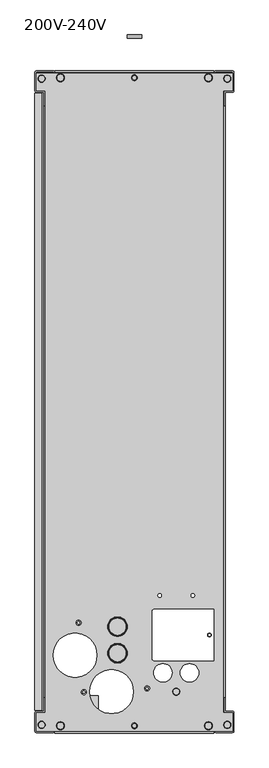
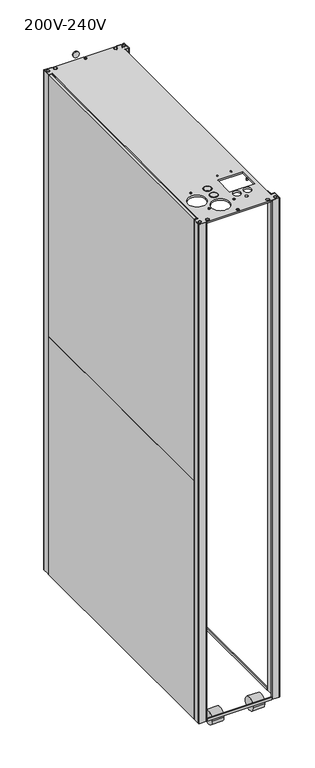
"""IFC4 building model written with IfcOpenShell, lengths in millimetres: proxy geometry, BIM_Model_for_ACRC301H-AC-Close_Coupled-Schneider_Electric-Chilled_Water-InRow_RC_301H-(208-230)V : 200V-240V."""

from ifc_helpers import new_model, si_unit, point, frame, frame_2d, origin, place, context, project, spatial, polyline, circle_curve, trimmed, segment, composite_curve, outline, extrude, source, transform, mapped, element, save


def proxy_200v_240v_cb059ae7(model_context):
    return source(origin(), model_context, "Body", "SweptSolid", [
        extrude(outline(polyline([(-134.4810716, 455.3598648), (-148.1830962, 455.3598648), (-148.1830962, 482.2563963), (147.8616006, 482.2563963), (147.8616006, 455.3455684), (133.7578931, 455.3455684), (133.7578931, -481.6803412), (147.9659779, -481.6803412), (147.9659779, -509.8577013), (-147.957802, -509.8577013), (-147.957802, -481.6724812), (-134.4810716, -481.6724812), (-134.4810716, 455.3598648)]), holes=[composite_curve([segment(trimmed(circle_curve(frame_2d((-139.9810746, -500.1376512)), 5.3750029), [point((-145.3560775, -500.1376512))], [point((-134.6060717, -500.1376512))], True, "CARTESIAN"), True, "CONTINUOUS"), segment(trimmed(circle_curve(frame_2d((-139.9810746, -500.1376512)), 5.3750029), [point((-134.6060717, -500.1376512))], [point((-145.3560775, -500.1376512))], True, "CARTESIAN"), True, "CONTINUOUS")], self_intersect=False), composite_curve([segment(trimmed(circle_curve(frame_2d((-111.5499792, -501.5165719)), 6.0000032), [point((-117.5499825, -501.5165719))], [point((-105.549976, -501.5165719))], True, "CARTESIAN"), True, "CONTINUOUS"), segment(trimmed(circle_curve(frame_2d((-111.5499792, -501.5165719)), 6.0000032), [point((-105.549976, -501.5165719))], [point((-117.5499825, -501.5165719))], True, "CARTESIAN"), True, "CONTINUOUS")], self_intersect=False), composite_curve([segment(trimmed(circle_curve(frame_2d((8.1e-05, -501.5165719)), 4.3750024), [point((-4.3749214, -501.5165719))], [point((4.3750834, -501.5165719))], True, "CARTESIAN"), True, "CONTINUOUS"), segment(trimmed(circle_curve(frame_2d((8.1e-05, -501.5165719)), 4.3750024), [point((4.3750834, -501.5165719))], [point((-4.3749214, -501.5165719))], True, "CARTESIAN"), True, "CONTINUOUS")], self_intersect=False), composite_curve([segment(trimmed(circle_curve(frame_2d((111.5501412, -501.5165719)), 6.0000032), [point((105.550138, -501.5165719))], [point((117.5501445, -501.5165719))], True, "CARTESIAN"), True, "CONTINUOUS"), segment(trimmed(circle_curve(frame_2d((111.5501412, -501.5165719)), 6.0000032), [point((117.5501445, -501.5165719))], [point((105.550138, -501.5165719))], True, "CARTESIAN"), True, "CONTINUOUS")], self_intersect=False), composite_curve([segment(trimmed(circle_curve(frame_2d((139.9812366, -500.1376512)), 5.3750029), [point((134.6062337, -500.1376512))], [point((145.3562395, -500.1376512))], True, "CARTESIAN"), True, "CONTINUOUS"), segment(trimmed(circle_curve(frame_2d((139.9812366, -500.1376512)), 5.3750029), [point((145.3562395, -500.1376512))], [point((134.6062337, -500.1376512))], True, "CARTESIAN"), True, "CONTINUOUS")], self_intersect=False), composite_curve([segment(trimmed(circle_curve(frame_2d((-89.4810473, -395.1565145)), 33.0000178), [point((-122.4810651, -395.1565145))], [point((-56.4810295, -395.1565145))], True, "CARTESIAN"), True, "CONTINUOUS"), segment(trimmed(circle_curve(frame_2d((-89.4810473, -395.1565145)), 33.0000178), [point((-56.4810295, -395.1565145))], [point((-122.4810651, -395.1565145))], True, "CARTESIAN"), True, "CONTINUOUS")], self_intersect=False), composite_curve([segment(trimmed(circle_curve(frame_2d((-34.4810176, -450.1565442)), 33.0000178), [point((-67.4810354, -450.1565442))], [point((-1.4809998, -450.1565442))], True, "CARTESIAN"), True, "CONTINUOUS"), segment(trimmed(circle_curve(frame_2d((-34.4810176, -450.1565442)), 33.0000178), [point((-1.4809998, -450.1565442))], [point((-67.4810354, -450.1565442))], True, "CARTESIAN"), True, "CONTINUOUS")], self_intersect=False), composite_curve([segment(trimmed(circle_curve(frame_2d((-25.5188528, -392.1565129)), 14.6812079), [point((-40.2000607, -392.1565129))], [point((-10.8376449, -392.1565129))], True, "CARTESIAN"), True, "CONTINUOUS"), segment(trimmed(circle_curve(frame_2d((-25.5188528, -392.1565129)), 14.6812079), [point((-10.8376449, -392.1565129))], [point((-40.2000607, -392.1565129))], True, "CARTESIAN"), True, "CONTINUOUS")], self_intersect=False), composite_curve([segment(trimmed(circle_curve(frame_2d((-25.5188528, -352.1564913)), 14.6812079), [point((-40.2000607, -352.1564913))], [point((-10.8376449, -352.1564913))], True, "CARTESIAN"), True, "CONTINUOUS"), segment(trimmed(circle_curve(frame_2d((-25.5188528, -352.1564913)), 14.6812079), [point((-10.8376449, -352.1564913))], [point((-40.2000607, -352.1564913))], True, "CARTESIAN"), True, "CONTINUOUS")], self_intersect=False), polyline([(119.5922256, -403.6565191), (119.5922256, -325.6564769), (28.9866434, -325.6564769), (26.9866423, -327.656478), (26.9866423, -331.6564802), (26.9866423, -397.6565158), (26.9866423, -401.656518), (28.9866434, -403.6565191), (119.5922256, -403.6565191)]), composite_curve([segment(trimmed(circle_curve(frame_2d((82.9812058, -421.6565288)), 13.9000075), [point((69.0811983, -421.6565288))], [point((96.8812133, -421.6565288))], True, "CARTESIAN"), True, "CONTINUOUS"), segment(trimmed(circle_curve(frame_2d((82.9812058, -421.6565288)), 13.9000075), [point((96.8812133, -421.6565288))], [point((69.0811983, -421.6565288))], True, "CARTESIAN"), True, "CONTINUOUS")], self_intersect=False), composite_curve([segment(trimmed(circle_curve(frame_2d((42.9811842, -421.6565288)), 13.9000075), [point((29.0811767, -421.6565288))], [point((56.8811917, -421.6565288))], True, "CARTESIAN"), True, "CONTINUOUS"), segment(trimmed(circle_curve(frame_2d((42.9811842, -421.6565288)), 13.9000075), [point((56.8811917, -421.6565288))], [point((29.0811767, -421.6565288))], True, "CARTESIAN"), True, "CONTINUOUS")], self_intersect=False), composite_curve([segment(trimmed(circle_curve(frame_2d((19.0773315, -445.2074267)), 3.8000021), [point((15.2773295, -445.2074267))], [point((22.8773336, -445.2074267))], True, "CARTESIAN"), True, "CONTINUOUS"), segment(trimmed(circle_curve(frame_2d((19.0773315, -445.2074267)), 3.8000021), [point((22.8773336, -445.2074267))], [point((15.2773295, -445.2074267))], True, "CARTESIAN"), True, "CONTINUOUS")], self_intersect=False), composite_curve([segment(trimmed(circle_curve(frame_2d((62.981195, -450.1565442)), 5.2500028), [point((57.7311922, -450.1565442))], [point((68.2311978, -450.1565442))], True, "CARTESIAN"), True, "CONTINUOUS"), segment(trimmed(circle_curve(frame_2d((62.981195, -450.1565442)), 5.2500028), [point((68.2311978, -450.1565442))], [point((57.7311922, -450.1565442))], True, "CARTESIAN"), True, "CONTINUOUS")], self_intersect=False), composite_curve([segment(trimmed(circle_curve(frame_2d((-76.2865117, -450.7524474)), 3.8000021), [point((-80.0865138, -450.7524474))], [point((-72.4865097, -450.7524474))], True, "CARTESIAN"), True, "CONTINUOUS"), segment(trimmed(circle_curve(frame_2d((-76.2865117, -450.7524474)), 3.8000021), [point((-72.4865097, -450.7524474))], [point((-80.0865138, -450.7524474))], True, "CARTESIAN"), True, "CONTINUOUS")], self_intersect=False), composite_curve([segment(trimmed(circle_curve(frame_2d((-84.1459649, -346.2429222)), 3.8000021), [point((-87.945967, -346.2429222))], [point((-80.3459629, -346.2429222))], True, "CARTESIAN"), True, "CONTINUOUS"), segment(trimmed(circle_curve(frame_2d((-84.1459649, -346.2429222)), 3.8000021), [point((-80.3459629, -346.2429222))], [point((-87.945967, -346.2429222))], True, "CARTESIAN"), True, "CONTINUOUS")], self_intersect=False), composite_curve([segment(trimmed(circle_curve(frame_2d((87.9812085, -305.1564659)), 2.6647024), [point((85.3165061, -305.1564659))], [point((90.6459109, -305.1564659))], True, "CARTESIAN"), True, "CONTINUOUS"), segment(trimmed(circle_curve(frame_2d((87.9812085, -305.1564659)), 2.6647024), [point((90.6459109, -305.1564659))], [point((85.3165061, -305.1564659))], True, "CARTESIAN"), True, "CONTINUOUS")], self_intersect=False), composite_curve([segment(trimmed(circle_curve(frame_2d((37.9811815, -305.1564659)), 2.6647024), [point((35.3164791, -305.1564659))], [point((40.6458839, -305.1564659))], True, "CARTESIAN"), True, "CONTINUOUS"), segment(trimmed(circle_curve(frame_2d((37.9811815, -305.1564659)), 2.6647024), [point((40.6458839, -305.1564659))], [point((35.3164791, -305.1564659))], True, "CARTESIAN"), True, "CONTINUOUS")], self_intersect=False), composite_curve([segment(trimmed(circle_curve(frame_2d((139.9812366, 473.8250348)), 5.3750029), [point((134.6062337, 473.8250348))], [point((145.3562395, 473.8250348))], True, "CARTESIAN"), True, "CONTINUOUS"), segment(trimmed(circle_curve(frame_2d((139.9812366, 473.8250348)), 5.3750029), [point((145.3562395, 473.8250348))], [point((134.6062337, 473.8250348))], True, "CARTESIAN"), True, "CONTINUOUS")], self_intersect=False), composite_curve([segment(trimmed(circle_curve(frame_2d((111.5501412, 475.2039555)), 6.0000032), [point((105.550138, 475.2039555))], [point((117.5501445, 475.2039555))], True, "CARTESIAN"), True, "CONTINUOUS"), segment(trimmed(circle_curve(frame_2d((111.5501412, 475.2039555)), 6.0000032), [point((117.5501445, 475.2039555))], [point((105.550138, 475.2039555))], True, "CARTESIAN"), True, "CONTINUOUS")], self_intersect=False), composite_curve([segment(trimmed(circle_curve(frame_2d((8.1e-05, 475.2039555)), 4.3750024), [point((-4.3749214, 475.2039555))], [point((4.3750834, 475.2039555))], True, "CARTESIAN"), True, "CONTINUOUS"), segment(trimmed(circle_curve(frame_2d((8.1e-05, 475.2039555)), 4.3750024), [point((4.3750834, 475.2039555))], [point((-4.3749214, 475.2039555))], True, "CARTESIAN"), True, "CONTINUOUS")], self_intersect=False), composite_curve([segment(trimmed(circle_curve(frame_2d((-139.9810746, 473.8250348)), 5.3750029), [point((-145.3560775, 473.8250348))], [point((-134.6060717, 473.8250348))], True, "CARTESIAN"), True, "CONTINUOUS"), segment(trimmed(circle_curve(frame_2d((-139.9810746, 473.8250348)), 5.3750029), [point((-134.6060717, 473.8250348))], [point((-145.3560775, 473.8250348))], True, "CARTESIAN"), True, "CONTINUOUS")], self_intersect=False), composite_curve([segment(trimmed(circle_curve(frame_2d((-111.5499792, 475.2039555)), 6.0000032), [point((-117.5499825, 475.2039555))], [point((-105.549976, 475.2039555))], True, "CARTESIAN"), True, "CONTINUOUS"), segment(trimmed(circle_curve(frame_2d((-111.5499792, 475.2039555)), 6.0000032), [point((-105.549976, 475.2039555))], [point((-117.5499825, 475.2039555))], True, "CARTESIAN"), True, "CONTINUOUS")], self_intersect=False)]), frame((0.0, 0.0, 1985.0), z_axis=(0.0, 0.0, 1.0), x_axis=(1.0, 0.0, 0.0)), (0.0, 0.0, 1.0), 6.0),
        extrude(outline(composite_curve([segment(trimmed(circle_curve(frame_2d((-139.9810746, -500.1346512)), 4.6000025), [point((-144.5810771, -500.1346512))], [point((-135.3810721, -500.1346512))], False, "CARTESIAN"), True, "CONTINUOUS"), segment(trimmed(circle_curve(frame_2d((-139.9810746, -500.1346512)), 4.6000025), [point((-135.3810721, -500.1346512))], [point((-144.5810771, -500.1346512))], False, "CARTESIAN"), True, "CONTINUOUS")], self_intersect=False)), frame((0.0, 0.0, 1985.0), z_axis=(0.0, 0.0, 1.0), x_axis=(1.0, 0.0, 0.0)), (0.0, 0.0, 1.0), 6.0),
        extrude(outline(composite_curve([segment(trimmed(circle_curve(frame_2d((-111.5509792, -501.5165719)), 5.0000027), [point((-116.5509819, -501.5165719))], [point((-106.5509765, -501.5165719))], False, "CARTESIAN"), True, "CONTINUOUS"), segment(trimmed(circle_curve(frame_2d((-111.5509792, -501.5165719)), 5.0000027), [point((-106.5509765, -501.5165719))], [point((-116.5509819, -501.5165719))], False, "CARTESIAN"), True, "CONTINUOUS")], self_intersect=False)), frame((0.0, 0.0, 1985.0), z_axis=(0.0, 0.0, 1.0), x_axis=(1.0, 0.0, 0.0)), (0.0, 0.0, 1.0), 6.0),
        extrude(outline(composite_curve([segment(trimmed(circle_curve(frame_2d((8.1e-05, -501.5165719)), 3.0000016), [point((-2.9999206, -501.5165719))], [point((3.0000826, -501.5165719))], False, "CARTESIAN"), True, "CONTINUOUS"), segment(trimmed(circle_curve(frame_2d((8.1e-05, -501.5165719)), 3.0000016), [point((3.0000826, -501.5165719))], [point((-2.9999206, -501.5165719))], False, "CARTESIAN"), True, "CONTINUOUS")], self_intersect=False)), frame((0.0, 0.0, 1985.0), z_axis=(0.0, 0.0, 1.0), x_axis=(1.0, 0.0, 0.0)), (0.0, 0.0, 1.0), 6.0),
        extrude(outline(composite_curve([segment(trimmed(circle_curve(frame_2d((111.5512212, -501.5176519)), 5.0000027), [point((106.5512185, -501.5176519))], [point((116.5512239, -501.5176519))], False, "CARTESIAN"), True, "CONTINUOUS"), segment(trimmed(circle_curve(frame_2d((111.5512212, -501.5176519)), 5.0000027), [point((116.5512239, -501.5176519))], [point((106.5512185, -501.5176519))], False, "CARTESIAN"), True, "CONTINUOUS")], self_intersect=False)), frame((0.0, 0.0, 1985.0), z_axis=(0.0, 0.0, 1.0), x_axis=(1.0, 0.0, 0.0)), (0.0, 0.0, 1.0), 6.0),
        extrude(outline(composite_curve([segment(trimmed(circle_curve(frame_2d((139.9812366, -500.1376512)), 4.6000025), [point((135.3812341, -500.1376512))], [point((144.5812391, -500.1376512))], False, "CARTESIAN"), True, "CONTINUOUS"), segment(trimmed(circle_curve(frame_2d((139.9812366, -500.1376512)), 4.6000025), [point((144.5812391, -500.1376512))], [point((135.3812341, -500.1376512))], False, "CARTESIAN"), True, "CONTINUOUS")], self_intersect=False)), frame((0.0, 0.0, 1985.0), z_axis=(0.0, 0.0, 1.0), x_axis=(1.0, 0.0, 0.0)), (0.0, 0.0, 1.0), 6.0),
        extrude(outline(composite_curve([segment(trimmed(circle_curve(frame_2d((-25.5188528, -392.1565129)), 14.0462076), [point((-39.5650604, -392.1565129))], [point((-11.4726452, -392.1565129))], False, "CARTESIAN"), True, "CONTINUOUS"), segment(trimmed(circle_curve(frame_2d((-25.5188528, -392.1565129)), 14.0462076), [point((-11.4726452, -392.1565129))], [point((-39.5650604, -392.1565129))], False, "CARTESIAN"), True, "CONTINUOUS")], self_intersect=False), holes=[composite_curve([segment(trimmed(circle_curve(frame_2d((-25.5188528, -392.1565129)), 13.2461072), [point((-38.7649599, -392.1565129))], [point((-12.2727456, -392.1565129))], True, "CARTESIAN"), True, "CONTINUOUS"), segment(trimmed(circle_curve(frame_2d((-25.5188528, -392.1565129)), 13.2461072), [point((-12.2727456, -392.1565129))], [point((-38.7649599, -392.1565129))], True, "CARTESIAN"), True, "CONTINUOUS")], self_intersect=False)]), frame((0.0, 0.0, 1985.0), z_axis=(0.0, 0.0, 1.0), x_axis=(1.0, 0.0, 0.0)), (0.0, 0.0, 1.0), 6.0),
        extrude(outline(composite_curve([segment(trimmed(circle_curve(frame_2d((-25.5188528, -392.1565129)), 12.6111068), [point((-38.1299596, -392.1565129))], [point((-12.907746, -392.1565129))], False, "CARTESIAN"), True, "CONTINUOUS"), segment(trimmed(circle_curve(frame_2d((-25.5188528, -392.1565129)), 12.6111068), [point((-12.907746, -392.1565129))], [point((-38.1299596, -392.1565129))], False, "CARTESIAN"), True, "CONTINUOUS")], self_intersect=False)), frame((0.0, 0.0, 1985.0), z_axis=(0.0, 0.0, 1.0), x_axis=(1.0, 0.0, 0.0)), (0.0, 0.0, 1.0), 6.0),
        extrude(outline(composite_curve([segment(trimmed(circle_curve(frame_2d((-25.5188528, -352.1564913)), 14.0462076), [point((-39.5650604, -352.1564913))], [point((-11.4726452, -352.1564913))], False, "CARTESIAN"), True, "CONTINUOUS"), segment(trimmed(circle_curve(frame_2d((-25.5188528, -352.1564913)), 14.0462076), [point((-11.4726452, -352.1564913))], [point((-39.5650604, -352.1564913))], False, "CARTESIAN"), True, "CONTINUOUS")], self_intersect=False), holes=[composite_curve([segment(trimmed(circle_curve(frame_2d((-25.5188528, -352.1564913)), 13.2461072), [point((-38.7649599, -352.1564913))], [point((-12.2727456, -352.1564913))], True, "CARTESIAN"), True, "CONTINUOUS"), segment(trimmed(circle_curve(frame_2d((-25.5188528, -352.1564913)), 13.2461072), [point((-12.2727456, -352.1564913))], [point((-38.7649599, -352.1564913))], True, "CARTESIAN"), True, "CONTINUOUS")], self_intersect=False)]), frame((0.0, 0.0, 1985.0), z_axis=(0.0, 0.0, 1.0), x_axis=(1.0, 0.0, 0.0)), (0.0, 0.0, 1.0), 6.0),
        extrude(outline(composite_curve([segment(trimmed(circle_curve(frame_2d((-25.5188528, -352.1564913)), 12.6111068), [point((-38.1299596, -352.1564913))], [point((-12.907746, -352.1564913))], False, "CARTESIAN"), True, "CONTINUOUS"), segment(trimmed(circle_curve(frame_2d((-25.5188528, -352.1564913)), 12.6111068), [point((-12.907746, -352.1564913))], [point((-38.1299596, -352.1564913))], False, "CARTESIAN"), True, "CONTINUOUS")], self_intersect=False)), frame((0.0, 0.0, 1985.0), z_axis=(0.0, 0.0, 1.0), x_axis=(1.0, 0.0, 0.0)), (0.0, 0.0, 1.0), 6.0),
        extrude(outline(composite_curve([segment(trimmed(circle_curve(frame_2d((19.0773315, -445.2074267)), 2.0000011), [point((17.0773305, -445.2074267))], [point((21.0773326, -445.2074267))], False, "CARTESIAN"), True, "CONTINUOUS"), segment(trimmed(circle_curve(frame_2d((19.0773315, -445.2074267)), 2.0000011), [point((21.0773326, -445.2074267))], [point((17.0773305, -445.2074267))], False, "CARTESIAN"), True, "CONTINUOUS")], self_intersect=False)), frame((0.0, 0.0, 1985.0), z_axis=(0.0, 0.0, 1.0), x_axis=(1.0, 0.0, 0.0)), (0.0, 0.0, 1.0), 6.0),
        extrude(outline(composite_curve([segment(trimmed(circle_curve(frame_2d((62.981195, -450.1565442)), 4.6000025), [point((58.3811925, -450.1565442))], [point((67.5811975, -450.1565442))], False, "CARTESIAN"), True, "CONTINUOUS"), segment(trimmed(circle_curve(frame_2d((62.981195, -450.1565442)), 4.6000025), [point((67.5811975, -450.1565442))], [point((58.3811925, -450.1565442))], False, "CARTESIAN"), True, "CONTINUOUS")], self_intersect=False)), frame((0.0, 0.0, 1985.0), z_axis=(0.0, 0.0, 1.0), x_axis=(1.0, 0.0, 0.0)), (0.0, 0.0, 1.0), 6.0),
        extrude(outline(composite_curve([segment(trimmed(circle_curve(frame_2d((-76.2865117, -450.7524474)), 2.0000011), [point((-78.2865128, -450.7524474))], [point((-74.2865106, -450.7524474))], False, "CARTESIAN"), True, "CONTINUOUS"), segment(trimmed(circle_curve(frame_2d((-76.2865117, -450.7524474)), 2.0000011), [point((-74.2865106, -450.7524474))], [point((-78.2865128, -450.7524474))], False, "CARTESIAN"), True, "CONTINUOUS")], self_intersect=False)), frame((0.0, 0.0, 1985.0), z_axis=(0.0, 0.0, 1.0), x_axis=(1.0, 0.0, 0.0)), (0.0, 0.0, 1.0), 6.0),
        extrude(outline(composite_curve([segment(trimmed(circle_curve(frame_2d((-84.1459649, -346.2429222)), 2.0000011), [point((-86.145966, -346.2429222))], [point((-82.1459638, -346.2429222))], False, "CARTESIAN"), True, "CONTINUOUS"), segment(trimmed(circle_curve(frame_2d((-84.1459649, -346.2429222)), 2.0000011), [point((-82.1459638, -346.2429222))], [point((-86.145966, -346.2429222))], False, "CARTESIAN"), True, "CONTINUOUS")], self_intersect=False)), frame((0.0, 0.0, 1985.0), z_axis=(0.0, 0.0, 1.0), x_axis=(1.0, 0.0, 0.0)), (0.0, 0.0, 1.0), 6.0),
        extrude(outline(composite_curve([segment(trimmed(circle_curve(frame_2d((112.981222, -364.656498)), 2.7050015), [point((110.2762205, -364.656498))], [point((115.6862235, -364.656498))], False, "CARTESIAN"), True, "CONTINUOUS"), segment(trimmed(circle_curve(frame_2d((112.981222, -364.656498)), 2.7050015), [point((115.6862235, -364.656498))], [point((110.2762205, -364.656498))], False, "CARTESIAN"), True, "CONTINUOUS")], self_intersect=False), holes=[composite_curve([segment(trimmed(circle_curve(frame_2d((112.981222, -364.656498)), 2.0000011), [point((110.9812209, -364.656498))], [point((114.9812231, -364.656498))], True, "CARTESIAN"), True, "CONTINUOUS"), segment(trimmed(circle_curve(frame_2d((112.981222, -364.656498)), 2.0000011), [point((114.9812231, -364.656498))], [point((110.9812209, -364.656498))], True, "CARTESIAN"), True, "CONTINUOUS")], self_intersect=False)]), frame((0.0, 0.0, 1985.0), z_axis=(0.0, 0.0, 1.0), x_axis=(1.0, 0.0, 0.0)), (0.0, 0.0, 1.0), 6.0),
        extrude(outline(composite_curve([segment(trimmed(circle_curve(frame_2d((139.9812366, 473.8220348)), 4.6000025), [point((135.3812341, 473.8220348))], [point((144.5812391, 473.8220348))], False, "CARTESIAN"), True, "CONTINUOUS"), segment(trimmed(circle_curve(frame_2d((139.9812366, 473.8220348)), 4.6000025), [point((144.5812391, 473.8220348))], [point((135.3812341, 473.8220348))], False, "CARTESIAN"), True, "CONTINUOUS")], self_intersect=False)), frame((0.0, 0.0, 1985.0), z_axis=(0.0, 0.0, 1.0), x_axis=(1.0, 0.0, 0.0)), (0.0, 0.0, 1.0), 6.0),
        extrude(outline(composite_curve([segment(trimmed(circle_curve(frame_2d((111.5511412, 475.2039555)), 5.0000027), [point((106.5511385, 475.2039555))], [point((116.5511439, 475.2039555))], False, "CARTESIAN"), True, "CONTINUOUS"), segment(trimmed(circle_curve(frame_2d((111.5511412, 475.2039555)), 5.0000027), [point((116.5511439, 475.2039555))], [point((106.5511385, 475.2039555))], False, "CARTESIAN"), True, "CONTINUOUS")], self_intersect=False)), frame((0.0, 0.0, 1985.0), z_axis=(0.0, 0.0, 1.0), x_axis=(1.0, 0.0, 0.0)), (0.0, 0.0, 1.0), 6.0),
        extrude(outline(composite_curve([segment(trimmed(circle_curve(frame_2d((8.1e-05, 475.2039555)), 3.0000016), [point((-2.9999206, 475.2039555))], [point((3.0000826, 475.2039555))], False, "CARTESIAN"), True, "CONTINUOUS"), segment(trimmed(circle_curve(frame_2d((8.1e-05, 475.2039555)), 3.0000016), [point((3.0000826, 475.2039555))], [point((-2.9999206, 475.2039555))], False, "CARTESIAN"), True, "CONTINUOUS")], self_intersect=False)), frame((0.0, 0.0, 1985.0), z_axis=(0.0, 0.0, 1.0), x_axis=(1.0, 0.0, 0.0)), (0.0, 0.0, 1.0), 6.0),
        extrude(outline(composite_curve([segment(trimmed(circle_curve(frame_2d((-139.9810746, 473.8250348)), 4.6000025), [point((-144.5810771, 473.8250348))], [point((-135.3810721, 473.8250348))], False, "CARTESIAN"), True, "CONTINUOUS"), segment(trimmed(circle_curve(frame_2d((-139.9810746, 473.8250348)), 4.6000025), [point((-135.3810721, 473.8250348))], [point((-144.5810771, 473.8250348))], False, "CARTESIAN"), True, "CONTINUOUS")], self_intersect=False)), frame((0.0, 0.0, 1985.0), z_axis=(0.0, 0.0, 1.0), x_axis=(1.0, 0.0, 0.0)), (0.0, 0.0, 1.0), 6.0),
        extrude(outline(composite_curve([segment(trimmed(circle_curve(frame_2d((-111.5510592, 475.2050355)), 5.0000027), [point((-116.5510619, 475.2050355))], [point((-106.5510565, 475.2050355))], False, "CARTESIAN"), True, "CONTINUOUS"), segment(trimmed(circle_curve(frame_2d((-111.5510592, 475.2050355)), 5.0000027), [point((-106.5510565, 475.2050355))], [point((-116.5510619, 475.2050355))], False, "CARTESIAN"), True, "CONTINUOUS")], self_intersect=False)), frame((0.0, 0.0, 1985.0), z_axis=(0.0, 0.0, 1.0), x_axis=(1.0, 0.0, 0.0)), (0.0, 0.0, 1.0), 6.0),
        extrude(outline(polyline([(119.7501457, 483.57504), (-119.7499837, 483.57504), (-119.7499837, 485.8439613), (119.7501457, 485.8439613), (119.7501457, 483.57504)])), frame((0.0, 0.0, 36.1092195), z_axis=(0.0, 0.0, 1.0), x_axis=(1.0, 0.0, 0.0)), (0.0, 0.0, 1.0), 10.0),
        extrude(outline(polyline([(119.7501457, -512.1565777), (-119.7499837, -512.1565777), (-119.7499837, -509.8876564), (119.7501457, -509.8876564), (119.7501457, -512.1565777)])), frame((0.0, 0.0, 36.1092195), z_axis=(0.0, 0.0, 1.0), x_axis=(1.0, 0.0, 0.0)), (0.0, 0.0, 1.0), 10.0),
        extrude(outline(polyline([(136.4999927, -459.156549), (134.2312335, -459.156549), (134.2312335, 432.8439326), (136.4999927, 432.8439326), (136.4999927, -459.156549)])), frame((0.0, 0.0, 36.1092195), z_axis=(0.0, 0.0, 1.0), x_axis=(1.0, 0.0, 0.0)), (0.0, 0.0, 1.0), 10.0),
        extrude(outline(polyline([(-136.4999927, 432.8439326), (-134.2310715, 432.8439326), (-134.2310715, -459.156549), (-136.4999927, -459.156549), (-136.4999927, 432.8439326)])), frame((0.0, 0.0, 36.1092195), z_axis=(0.0, 0.0, 1.0), x_axis=(1.0, 0.0, 0.0)), (0.0, 0.0, 1.0), 10.0),
        extrude(outline(composite_curve([segment(polyline([(121.5189046, 483.1346453), (119.9999838, 483.1346453)]), True, "CONTINUOUS"), segment(trimmed(circle_curve(frame_2d((122.268905, 483.1346453)), 2.2689212), [point((119.9999838, 483.1346453))], [point((122.268905, 485.4035665))], False, "CARTESIAN"), True, "CONTINUOUS"), segment(polyline([(122.268905, 485.4035665), (147.7310788, 485.4035665)]), True, "CONTINUOUS"), segment(trimmed(circle_curve(frame_2d((147.7310788, 483.1346453)), 2.2689212), [point((147.7310788, 485.4035665))], [point((150.0, 483.1346453))], False, "CARTESIAN"), True, "CONTINUOUS"), segment(polyline([(150.0, 483.1346453), (150.0, 455.6724704)]), True, "CONTINUOUS"), segment(trimmed(circle_curve(frame_2d((147.7310788, 455.6724704)), 2.2689212), [point((150.0, 455.6724704))], [point((147.7310788, 453.4035492))], False, "CARTESIAN"), True, "CONTINUOUS"), segment(polyline([(147.7310788, 453.4035492), (137.2499931, 453.4035492)]), True, "CONTINUOUS"), segment(trimmed(circle_curve(frame_2d((137.2499931, 452.6535488)), 0.7500004), [point((137.2499931, 453.4035492))], [point((136.4999927, 452.6535488))], True, "CARTESIAN"), True, "CONTINUOUS"), segment(polyline([(136.4999927, 452.6535488), (136.4999927, 432.8439326), (134.9810719, 432.8439326), (134.9810719, 452.6535488)]), True, "CONTINUOUS"), segment(trimmed(circle_curve(frame_2d((137.2499931, 452.6535488)), 2.2689212), [point((134.9810719, 452.6535488))], [point((137.2499931, 454.92247))], False, "CARTESIAN"), True, "CONTINUOUS"), segment(polyline([(137.2499931, 454.92247), (147.7310788, 454.92247)]), True, "CONTINUOUS"), segment(trimmed(circle_curve(frame_2d((147.7310788, 455.6724704)), 0.7500004), [point((147.7310788, 454.92247))], [point((148.4810792, 455.6724704))], True, "CARTESIAN"), True, "CONTINUOUS"), segment(polyline([(148.4810792, 455.6724704), (148.4810792, 483.1346453)]), True, "CONTINUOUS"), segment(trimmed(circle_curve(frame_2d((147.7310788, 483.1346453)), 0.7500004), [point((148.4810792, 483.1346453))], [point((147.7310788, 483.8846457))], True, "CARTESIAN"), True, "CONTINUOUS"), segment(polyline([(147.7310788, 483.8846457), (122.268905, 483.8846457)]), True, "CONTINUOUS"), segment(trimmed(circle_curve(frame_2d((122.268905, 483.1346453)), 0.7500004), [point((122.268905, 483.8846457))], [point((121.5189046, 483.1346453))], True, "CARTESIAN"), True, "CONTINUOUS")], self_intersect=False)), frame((0.0, 0.0, 36.1092195), z_axis=(0.0, 0.0, 1.0), x_axis=(1.0, 0.0, 0.0)), (0.0, 0.0, 1.0), 1954.8907805),
        extrude(outline(composite_curve([segment(trimmed(circle_curve(frame_2d((-122.268905, 483.1346453)), 0.7500004), [point((-121.5189046, 483.1346453))], [point((-122.268905, 483.8846457))], True, "CARTESIAN"), True, "CONTINUOUS"), segment(polyline([(-122.268905, 483.8846457), (-147.7310788, 483.8846457)]), True, "CONTINUOUS"), segment(trimmed(circle_curve(frame_2d((-147.7310788, 483.1346453)), 0.7500004), [point((-147.7310788, 483.8846457))], [point((-148.4810792, 483.1346453))], True, "CARTESIAN"), True, "CONTINUOUS"), segment(polyline([(-148.4810792, 483.1346453), (-148.4810792, 455.6724704)]), True, "CONTINUOUS"), segment(trimmed(circle_curve(frame_2d((-147.7310788, 455.6724704)), 0.7500004), [point((-148.4810792, 455.6724704))], [point((-147.7310788, 454.92247))], True, "CARTESIAN"), True, "CONTINUOUS"), segment(polyline([(-147.7310788, 454.92247), (-137.2499931, 454.92247)]), True, "CONTINUOUS"), segment(trimmed(circle_curve(frame_2d((-137.2499931, 452.6535488)), 2.2689212), [point((-137.2499931, 454.92247))], [point((-134.9810719, 452.6535488))], False, "CARTESIAN"), True, "CONTINUOUS"), segment(polyline([(-134.9810719, 452.6535488), (-134.9810719, 432.8439326), (-136.4999927, 432.8439326), (-136.4999927, 452.6535488)]), True, "CONTINUOUS"), segment(trimmed(circle_curve(frame_2d((-137.2499931, 452.6535488)), 0.7500004), [point((-136.4999927, 452.6535488))], [point((-137.2499931, 453.4035492))], True, "CARTESIAN"), True, "CONTINUOUS"), segment(polyline([(-137.2499931, 453.4035492), (-147.7310788, 453.4035492)]), True, "CONTINUOUS"), segment(trimmed(circle_curve(frame_2d((-147.7310788, 455.6724704)), 2.2689212), [point((-147.7310788, 453.4035492))], [point((-150.0, 455.6724704))], False, "CARTESIAN"), True, "CONTINUOUS"), segment(polyline([(-150.0, 455.6724704), (-150.0, 483.1346453)]), True, "CONTINUOUS"), segment(trimmed(circle_curve(frame_2d((-147.7310788, 483.1346453)), 2.2689212), [point((-150.0, 483.1346453))], [point((-147.7310788, 485.4035665))], False, "CARTESIAN"), True, "CONTINUOUS"), segment(polyline([(-147.7310788, 485.4035665), (-122.268905, 485.4035665)]), True, "CONTINUOUS"), segment(trimmed(circle_curve(frame_2d((-122.268905, 483.1346453)), 2.2689212), [point((-122.268905, 485.4035665))], [point((-119.9999838, 483.1346453))], False, "CARTESIAN"), True, "CONTINUOUS"), segment(polyline([(-119.9999838, 483.1346453), (-121.5189046, 483.1346453)]), True, "CONTINUOUS")], self_intersect=False)), frame((0.0, 0.0, 36.1092195), z_axis=(0.0, 0.0, 1.0), x_axis=(1.0, 0.0, 0.0)), (0.0, 0.0, 1.0), 1954.8907805),
        extrude(outline(composite_curve([segment(trimmed(circle_curve(frame_2d((122.268905, -509.3846562)), 0.7500004), [point((121.5189046, -509.3846562))], [point((122.268905, -510.1346566))], True, "CARTESIAN"), True, "CONTINUOUS"), segment(polyline([(122.268905, -510.1346566), (147.7310788, -510.1346566)]), True, "CONTINUOUS"), segment(trimmed(circle_curve(frame_2d((147.7310788, -509.3846562)), 0.7500004), [point((147.7310788, -510.1346566))], [point((148.4810792, -509.3846562))], True, "CARTESIAN"), True, "CONTINUOUS"), segment(polyline([(148.4810792, -509.3846562), (148.4810792, -481.9224813)]), True, "CONTINUOUS"), segment(trimmed(circle_curve(frame_2d((147.7310788, -481.9224813)), 0.7500004), [point((148.4810792, -481.9224813))], [point((147.7310788, -481.1724809))], True, "CARTESIAN"), True, "CONTINUOUS"), segment(polyline([(147.7310788, -481.1724809), (137.2499931, -481.1724809)]), True, "CONTINUOUS"), segment(trimmed(circle_curve(frame_2d((137.2499931, -478.9035597)), 2.2689212), [point((137.2499931, -481.1724809))], [point((134.9810719, -478.9035597))], False, "CARTESIAN"), True, "CONTINUOUS"), segment(polyline([(134.9810719, -478.9035597), (134.9810719, -459.156549), (136.4999927, -459.156549), (136.4999927, -478.9035597)]), True, "CONTINUOUS"), segment(trimmed(circle_curve(frame_2d((137.2499931, -478.9035597)), 0.7500004), [point((136.4999927, -478.9035597))], [point((137.2499931, -479.6535601))], True, "CARTESIAN"), True, "CONTINUOUS"), segment(polyline([(137.2499931, -479.6535601), (147.7310788, -479.6535601)]), True, "CONTINUOUS"), segment(trimmed(circle_curve(frame_2d((147.7310788, -481.9224813)), 2.2689212), [point((147.7310788, -479.6535601))], [point((150.0, -481.9224813))], False, "CARTESIAN"), True, "CONTINUOUS"), segment(polyline([(150.0, -481.9224813), (150.0, -509.3846562)]), True, "CONTINUOUS"), segment(trimmed(circle_curve(frame_2d((147.7310788, -509.3846562)), 2.2689212), [point((150.0, -509.3846562))], [point((147.7310788, -511.6535774))], False, "CARTESIAN"), True, "CONTINUOUS"), segment(polyline([(147.7310788, -511.6535774), (122.268905, -511.6535774)]), True, "CONTINUOUS"), segment(trimmed(circle_curve(frame_2d((122.268905, -509.3846562)), 2.2689212), [point((122.268905, -511.6535774))], [point((119.9999838, -509.3846562))], False, "CARTESIAN"), True, "CONTINUOUS"), segment(polyline([(119.9999838, -509.3846562), (121.5189046, -509.3846562)]), True, "CONTINUOUS")], self_intersect=False)), frame((0.0, 0.0, 36.1092195), z_axis=(0.0, 0.0, 1.0), x_axis=(1.0, 0.0, 0.0)), (0.0, 0.0, 1.0), 1954.8907805),
        extrude(outline(composite_curve([segment(polyline([(-121.5189046, -509.3846562), (-119.9999838, -509.3846562)]), True, "CONTINUOUS"), segment(trimmed(circle_curve(frame_2d((-122.268905, -509.3846562)), 2.2689212), [point((-119.9999838, -509.3846562))], [point((-122.268905, -511.6535774))], False, "CARTESIAN"), True, "CONTINUOUS"), segment(polyline([(-122.268905, -511.6535774), (-147.7310788, -511.6535774)]), True, "CONTINUOUS"), segment(trimmed(circle_curve(frame_2d((-147.7310788, -509.3846562)), 2.2689212), [point((-147.7310788, -511.6535774))], [point((-150.0, -509.3846562))], False, "CARTESIAN"), True, "CONTINUOUS"), segment(polyline([(-150.0, -509.3846562), (-150.0, -481.9224813)]), True, "CONTINUOUS"), segment(trimmed(circle_curve(frame_2d((-147.7310788, -481.9224813)), 2.2689212), [point((-150.0, -481.9224813))], [point((-147.7310788, -479.6535601))], False, "CARTESIAN"), True, "CONTINUOUS"), segment(polyline([(-147.7310788, -479.6535601), (-137.2499931, -479.6535601)]), True, "CONTINUOUS"), segment(trimmed(circle_curve(frame_2d((-137.2499931, -478.9035597)), 0.7500004), [point((-137.2499931, -479.6535601))], [point((-136.4999927, -478.9035597))], True, "CARTESIAN"), True, "CONTINUOUS"), segment(polyline([(-136.4999927, -478.9035597), (-136.4999927, -459.156549), (-134.9810719, -459.156549), (-134.9810719, -478.9035597)]), True, "CONTINUOUS"), segment(trimmed(circle_curve(frame_2d((-137.2499931, -478.9035597)), 2.2689212), [point((-134.9810719, -478.9035597))], [point((-137.2499931, -481.1724809))], False, "CARTESIAN"), True, "CONTINUOUS"), segment(polyline([(-137.2499931, -481.1724809), (-147.7310788, -481.1724809)]), True, "CONTINUOUS"), segment(trimmed(circle_curve(frame_2d((-147.7310788, -481.9224813)), 0.7500004), [point((-147.7310788, -481.1724809))], [point((-148.4810792, -481.9224813))], True, "CARTESIAN"), True, "CONTINUOUS"), segment(polyline([(-148.4810792, -481.9224813), (-148.4810792, -509.3846562)]), True, "CONTINUOUS"), segment(trimmed(circle_curve(frame_2d((-147.7310788, -509.3846562)), 0.7500004), [point((-148.4810792, -509.3846562))], [point((-147.7310788, -510.1346566))], True, "CARTESIAN"), True, "CONTINUOUS"), segment(polyline([(-147.7310788, -510.1346566), (-122.268905, -510.1346566)]), True, "CONTINUOUS"), segment(trimmed(circle_curve(frame_2d((-122.268905, -509.3846562)), 0.7500004), [point((-122.268905, -510.1346566))], [point((-121.5189046, -509.3846562))], True, "CARTESIAN"), True, "CONTINUOUS")], self_intersect=False)), frame((0.0, 0.0, 36.1092195), z_axis=(0.0, 0.0, 1.0), x_axis=(1.0, 0.0, 0.0)), (0.0, 0.0, 1.0), 1954.8907805),
        extrude(outline(composite_curve([segment(trimmed(circle_curve(frame_2d((-481.6556622, 25.0510733)), 25.4000137), [point((-456.2556484, 25.0510733))], [point((-507.0556759, 25.0510733))], False, "CARTESIAN"), True, "CONTINUOUS"), segment(trimmed(circle_curve(frame_2d((-481.6556622, 25.0510733)), 25.4000137), [point((-507.0556759, 25.0510733))], [point((-456.2556484, 25.0510733))], False, "CARTESIAN"), True, "CONTINUOUS")], self_intersect=False)), frame((-97.025479, 0.0, 0.0), z_axis=(1.0, 0.0, 0.0), x_axis=(0.0, 1.0, 0.0)), (0.0, 0.0, 1.0), 42.500023),
        extrude(outline(composite_curve([segment(trimmed(circle_curve(frame_2d((453.0602856, 25.2542522)), 25.4000137), [point((478.4602994, 25.2542522))], [point((427.6602719, 25.2542522))], False, "CARTESIAN"), True, "CONTINUOUS"), segment(trimmed(circle_curve(frame_2d((453.0602856, 25.2542522)), 25.4000137), [point((427.6602719, 25.2542522))], [point((478.4602994, 25.2542522))], False, "CARTESIAN"), True, "CONTINUOUS")], self_intersect=False)), frame((-97.025479, 0.0, 0.0), z_axis=(1.0, 0.0, 0.0), x_axis=(0.0, 1.0, 0.0)), (0.0, 0.0, 1.0), 42.500023),
        extrude(outline(composite_curve([segment(trimmed(circle_curve(frame_2d((-481.8102965, 25.4000137)), 25.4000137), [point((-456.4102828, 25.4000137))], [point((-507.2103102, 25.4000137))], False, "CARTESIAN"), True, "CONTINUOUS"), segment(trimmed(circle_curve(frame_2d((-481.8102965, 25.4000137)), 25.4000137), [point((-507.2103102, 25.4000137))], [point((-456.4102828, 25.4000137))], False, "CARTESIAN"), True, "CONTINUOUS")], self_intersect=False)), frame((54.5246028, 0.0, 0.0), z_axis=(1.0, 0.0, 0.0), x_axis=(0.0, 1.0, 0.0)), (0.0, 0.0, 1.0), 42.500023),
        extrude(outline(composite_curve([segment(trimmed(circle_curve(frame_2d((453.0602856, 25.4000137)), 25.4000137), [point((478.4602994, 25.4000137))], [point((427.6602719, 25.4000137))], False, "CARTESIAN"), True, "CONTINUOUS"), segment(trimmed(circle_curve(frame_2d((453.0602856, 25.4000137)), 25.4000137), [point((427.6602719, 25.4000137))], [point((478.4602994, 25.4000137))], False, "CARTESIAN"), True, "CONTINUOUS")], self_intersect=False)), frame((54.5246028, 0.0, 0.0), z_axis=(1.0, 0.0, 0.0), x_axis=(0.0, 1.0, 0.0)), (0.0, 0.0, 1.0), 42.500023),
        extrude(outline(composite_curve([segment(trimmed(circle_curve(frame_2d((1968.8463543, -0.00054)), 10.9000059), [point((1968.8463543, -10.9005459))], [point((1968.8463543, 10.8994659))], False, "CARTESIAN"), True, "CONTINUOUS"), segment(trimmed(circle_curve(frame_2d((1968.8463543, -0.00054)), 10.9000059), [point((1968.8463543, 10.8994659))], [point((1968.8463543, -10.9005459))], False, "CARTESIAN"), True, "CONTINUOUS")], self_intersect=False)), frame((0.0, 534.9999946, 0.0), z_axis=(0.0, 1.0, 0.0), x_axis=(0.0, 0.0, 1.0)), (0.0, 0.0, 1.0), 4.7222483),
        extrude(outline(polyline([(-150.0, 451.7831231), (-139.4999943, 451.7831231), (-139.4999943, -478.2173791), (-150.0, -478.2173791), (-150.0, 451.7831231)])), frame((0.0, 0.0, 969.4994484), z_axis=(0.0, 0.0, 1.0), x_axis=(1.0, 0.0, 0.0)), (0.0, 0.0, 1.0), 1021.5005516),
        extrude(outline(polyline([(-150.0, 451.7831231), (-139.4999943, 451.7831231), (-139.4999943, -478.2173791), (-150.0, -478.2173791), (-150.0, 451.7831231)])), frame((0.0, 0.0, 36.1092195), z_axis=(0.0, 0.0, 1.0), x_axis=(1.0, 0.0, 0.0)), (0.0, 0.0, 1.0), 932.1160893),
    ])


if __name__ == "__main__":
    model = new_model("IFC4")
    model_context = context("Model", 3, world=origin())
    ifc_project = project(units=[si_unit("LENGTHUNIT", "METRE", prefix="MILLI")], contexts=[model_context])
    site = spatial("IfcSite", under=ifc_project)
    building = spatial("IfcBuilding", under=site)
    placement = place(None, origin())
    proxy_200v_240v_shape = proxy_200v_240v_cb059ae7(model_context)
    element("IfcBuildingElementProxy", 1, Name="BIM_Model_for_ACRC301H-AC-Close_Coupled-Schneider_Electric-Chilled_Water-InRow_RC_301H-(208-230)V : 200V-240V", ObjectType="BIM_Model_for_ACRC301H-AC-Close_Coupled-Schneider_Electric-Chilled_Water-InRow_RC_301H-(208-230)V : 200V-240V", at=placement, inside=building, context=model_context, shape_type="MappedRepresentation", body=[
        mapped(proxy_200v_240v_shape, transform((0.0, 0.0, 0.0), x_axis=(1.0, 0.0, 0.0), y_axis=(0.0, 1.0, 0.0), z_axis=(0.0, 0.0, 1.0))),
    ])
    save(model, "model.ifc")
